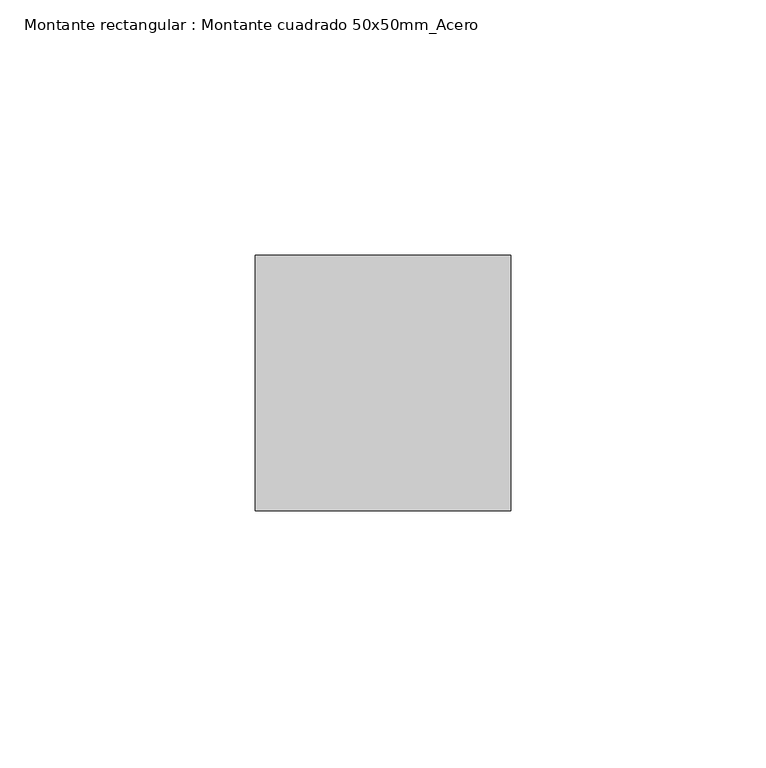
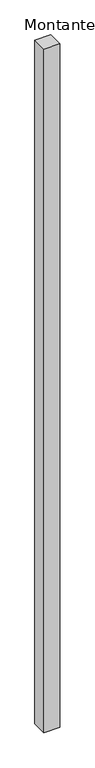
"""IFC4 building model written with IfcOpenShell, lengths in millimetres: member geometry, Montante rectangular : Montante cuadrado 50x50mm_Acero."""

from ifc_helpers import new_model, si_unit, frame, origin, place, context, project, spatial, polyline, outline, extrude, source, transform, mapped, element, save


def montante_rectangular_montante_cuadrado_50x50mm_acero_83e1ad39(model_context):
    return source(origin(), model_context, "Body", "SweptSolid", [
        extrude(outline(polyline([(0.0, 0.0), (0.0, -50.0), (-50.0, -50.0), (-50.0, 0.0), (0.0, 0.0)])), frame((0.0, 0.0, -2300.0), z_axis=(0.0, 0.0, 1.0), x_axis=(1.0, 0.0, 0.0)), (0.0, 0.0, 1.0), 2300.0),
    ])


if __name__ == "__main__":
    model = new_model("IFC4")
    model_context = context("Model", 3, world=origin())
    ifc_project = project(units=[si_unit("LENGTHUNIT", "METRE", prefix="MILLI")], contexts=[model_context])
    site = spatial("IfcSite", under=ifc_project)
    building = spatial("IfcBuilding", under=site)
    placement = place(None, origin())
    montante_rectangular_montante_cuadrado_50x50mm_acero_shape = montante_rectangular_montante_cuadrado_50x50mm_acero_83e1ad39(model_context)
    element("IfcMember", 1, ObjectType="Montante rectangular : Montante cuadrado 50x50mm_Acero", at=placement, inside=building, context=model_context, shape_type="MappedRepresentation", body=[
        mapped(montante_rectangular_montante_cuadrado_50x50mm_acero_shape, transform((0.0, 0.0, 0.0), x_axis=(1.0, 0.0, 0.0), y_axis=(0.0, 1.0, 0.0), z_axis=(0.0, 0.0, 1.0))),
    ])
    save(model, "model.ifc")
